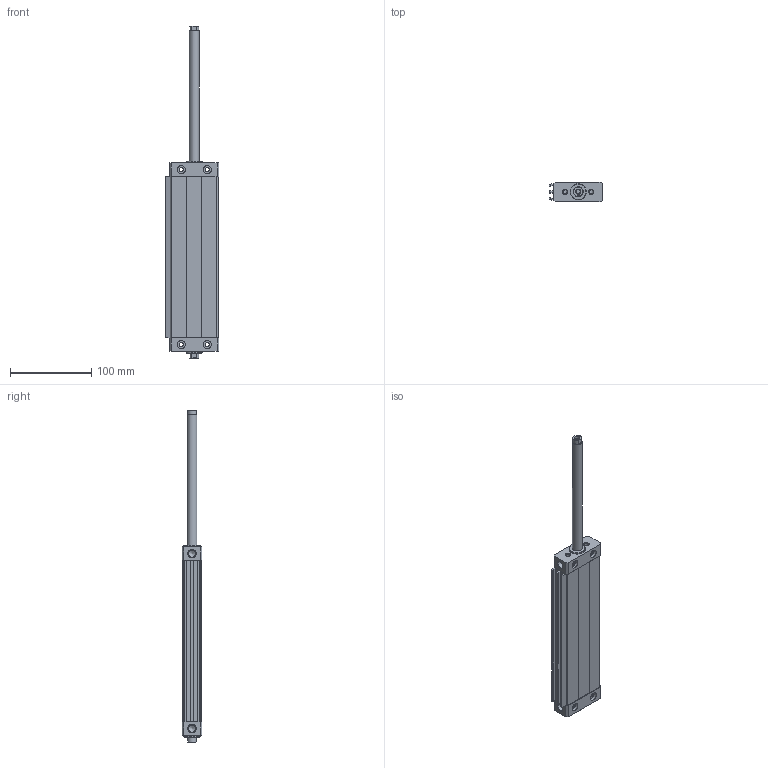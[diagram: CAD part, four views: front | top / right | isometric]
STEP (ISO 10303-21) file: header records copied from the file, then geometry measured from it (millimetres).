
FILE_DESCRIPTION((''),'2;1');
FILE_NAME('I:\Area Tecnica\Disegni\VARIE-3D\Componenti\1370 - CPO\1370_##_0000_03\1370_32_0160_03-01.iam.step','2010-12-16T10:55:13',(''),(''),'Autodesk Inventor 2011','Autodesk Inventor 2011','');
FILE_SCHEMA(('AUTOMOTIVE_DESIGN { 1 0 10303 214 1 1 1 1 }'));
Length unit declared in the file: millimetre
Products named in the file (5): 1370_32_0160_03-01; 1370_05_32_0000; 1370_06_32_0160; 1370_08_32_0000; 1370_3_32_0160
Assembly tree (4 placements, depth 2):
  1370_32_0160_03-01
    1370_05_32_0000
    1370_06_32_0160
    1370_08_32_0000
    1370_3_32_0160
Bounding box: 65.5 x 24 x 408 mm (x, y, z)
Volume: 229384.4 mm3; surface area: 101319.1 mm2
Topology: 4 solids, 4 shells, 164 faces, 392 edges, 250 vertices
Faces by surface type: plane 92, cylinder 48, cone 24
Full cylindrical faces by diameter (mm): 5 x12, 6.3 x2, 8.7 x2, 10 x8, 11.5 x2, 12 x4, 20 x2
Entity records: 4780 total; most frequent: DIRECTION 792, CARTESIAN_POINT 787, ORIENTED_EDGE 660, EDGE_CURVE 330, AXIS2_PLACEMENT_3D 297, EDGE_LOOP 252, VERTEX_POINT 240, VECTOR 198
